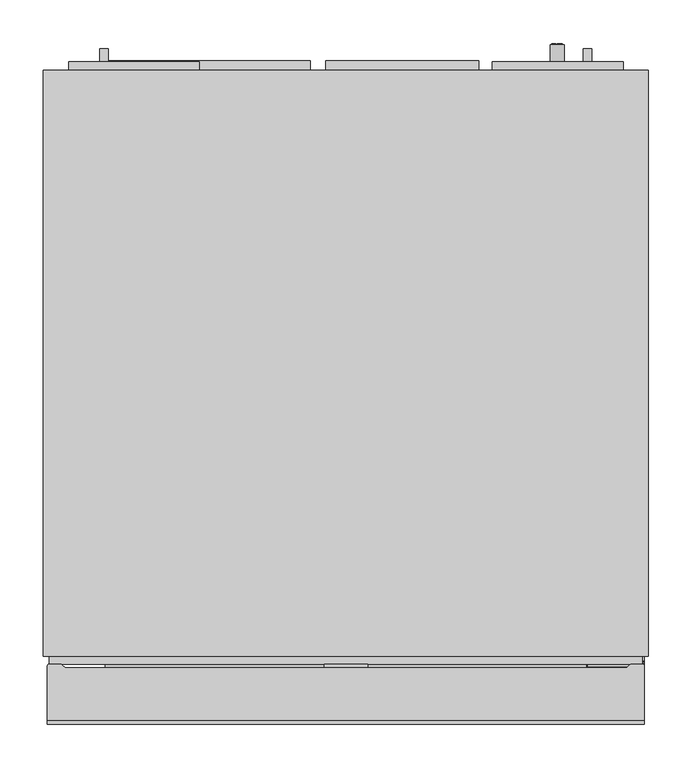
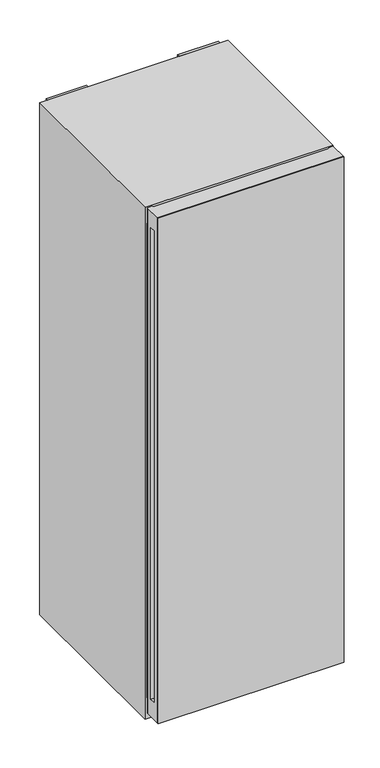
"""IFC4 building model written with IfcOpenShell, lengths in millimetres: proxy geometry, 12588220_CN_KWT4999F_OBSW : 39499962_CN_12588220_KWT4999F_OBSW."""

from ifc_helpers import new_model, si_unit, point, frame, frame_2d, origin, origin_with_axes, place, context, project, spatial, polyline, circle_curve, trimmed, segment, composite_curve, outline, extrude, faceted_brep, source, transform, mapped, element, save
from ifc_brep_helpers import plane_surface, cylinder_surface, advanced_brep


def specialty_equipment_9f9a1140(model_context):
    return source(origin(), model_context, "Body", "SolidModel", [
        extrude(outline(composite_curve([segment(polyline([(1710.5, -226.25), (1702.5, -226.25), (1702.5, -208.25), (1710.5, -208.25)]), True, "CONTINUOUS"), segment(trimmed(circle_curve(frame_2d((1710.5, -212.25)), 4.0), [point((1710.5, -208.25))], [point((1714.5, -212.25))], False, "CARTESIAN"), True, "CONTINUOUS"), segment(polyline([(1714.5, -212.25), (1714.5, -222.25)]), True, "CONTINUOUS"), segment(trimmed(circle_curve(frame_2d((1710.5, -222.25)), 4.0), [point((1714.5, -222.25))], [point((1710.5, -226.25))], False, "CARTESIAN"), True, "CONTINUOUS")], self_intersect=False)), frame((0.0, -683.7655853, 0.0), z_axis=(0.0, 1.0, 0.0), x_axis=(0.0, 0.0, 1.0)), (0.0, 0.0, 1.0), 517.2655853),
        extrude(outline(composite_curve([segment(polyline([(1710.5, -186.75), (1702.5, -186.75), (1702.5, -168.75), (1710.5, -168.75)]), True, "CONTINUOUS"), segment(trimmed(circle_curve(frame_2d((1710.5, -172.75)), 4.0), [point((1710.5, -168.75))], [point((1714.5, -172.75))], False, "CARTESIAN"), True, "CONTINUOUS"), segment(polyline([(1714.5, -172.75), (1714.5, -182.75)]), True, "CONTINUOUS"), segment(trimmed(circle_curve(frame_2d((1710.5, -182.75)), 4.0), [point((1714.5, -182.75))], [point((1710.5, -186.75))], False, "CARTESIAN"), True, "CONTINUOUS")], self_intersect=False)), frame((0.0, -683.7655853, 0.0), z_axis=(0.0, 1.0, 0.0), x_axis=(0.0, 0.0, 1.0)), (0.0, 0.0, 1.0), 517.2655853),
        extrude(outline(composite_curve([segment(polyline([(1710.5, -147.25), (1702.5, -147.25), (1702.5, -129.25), (1710.5, -129.25)]), True, "CONTINUOUS"), segment(trimmed(circle_curve(frame_2d((1710.5, -133.25)), 4.0), [point((1710.5, -129.25))], [point((1714.5, -133.25))], False, "CARTESIAN"), True, "CONTINUOUS"), segment(polyline([(1714.5, -133.25), (1714.5, -143.25)]), True, "CONTINUOUS"), segment(trimmed(circle_curve(frame_2d((1710.5, -143.25)), 4.0), [point((1714.5, -143.25))], [point((1710.5, -147.25))], False, "CARTESIAN"), True, "CONTINUOUS")], self_intersect=False)), frame((0.0, -683.7655853, 0.0), z_axis=(0.0, 1.0, 0.0), x_axis=(0.0, 0.0, 1.0)), (0.0, 0.0, 1.0), 517.2655853),
        extrude(outline(composite_curve([segment(trimmed(circle_curve(frame_2d((1710.5, 143.25)), 4.0), [point((1710.5, 147.25))], [point((1714.5, 143.25))], False, "CARTESIAN"), True, "CONTINUOUS"), segment(polyline([(1714.5, 143.25), (1714.5, 133.25)]), True, "CONTINUOUS"), segment(trimmed(circle_curve(frame_2d((1710.5, 133.25)), 4.0), [point((1714.5, 133.25))], [point((1710.5, 129.25))], False, "CARTESIAN"), True, "CONTINUOUS"), segment(polyline([(1710.5, 129.25), (1702.5, 129.25), (1702.5, 147.25), (1710.5, 147.25)]), True, "CONTINUOUS")], self_intersect=False)), frame((0.0, -683.7655853, 0.0), z_axis=(0.0, 1.0, 0.0), x_axis=(0.0, 0.0, 1.0)), (0.0, 0.0, 1.0), 517.2655853),
        extrude(outline(composite_curve([segment(trimmed(circle_curve(frame_2d((1710.5, 64.25)), 4.0), [point((1710.5, 68.25))], [point((1714.5, 64.25))], False, "CARTESIAN"), True, "CONTINUOUS"), segment(polyline([(1714.5, 64.25), (1714.5, 54.25)]), True, "CONTINUOUS"), segment(trimmed(circle_curve(frame_2d((1710.5, 54.25)), 4.0), [point((1714.5, 54.25))], [point((1710.5, 50.25))], False, "CARTESIAN"), True, "CONTINUOUS"), segment(polyline([(1710.5, 50.25), (1702.5, 50.25), (1702.5, 68.25), (1710.5, 68.25)]), True, "CONTINUOUS")], self_intersect=False)), frame((0.0, -683.7655853, 0.0), z_axis=(0.0, 1.0, 0.0), x_axis=(0.0, 0.0, 1.0)), (0.0, 0.0, 1.0), 517.2655853),
        extrude(outline(composite_curve([segment(trimmed(circle_curve(frame_2d((1710.5, 103.75)), 4.0), [point((1710.5, 107.75))], [point((1714.5, 103.75))], False, "CARTESIAN"), True, "CONTINUOUS"), segment(polyline([(1714.5, 103.75), (1714.5, 93.75)]), True, "CONTINUOUS"), segment(trimmed(circle_curve(frame_2d((1710.5, 93.75)), 4.0), [point((1714.5, 93.75))], [point((1710.5, 89.75))], False, "CARTESIAN"), True, "CONTINUOUS"), segment(polyline([(1710.5, 89.75), (1702.5, 89.75), (1702.5, 107.75), (1710.5, 107.75)]), True, "CONTINUOUS")], self_intersect=False)), frame((0.0, -683.7655853, 0.0), z_axis=(0.0, 1.0, 0.0), x_axis=(0.0, 0.0, 1.0)), (0.0, 0.0, 1.0), 517.2655853),
        extrude(outline(composite_curve([segment(polyline([(1710.5, -107.75), (1702.5, -107.75), (1702.5, -89.75), (1710.5, -89.75)]), True, "CONTINUOUS"), segment(trimmed(circle_curve(frame_2d((1710.5, -93.75)), 4.0), [point((1710.5, -89.75))], [point((1714.5, -93.75))], False, "CARTESIAN"), True, "CONTINUOUS"), segment(polyline([(1714.5, -93.75), (1714.5, -103.75)]), True, "CONTINUOUS"), segment(trimmed(circle_curve(frame_2d((1710.5, -103.75)), 4.0), [point((1714.5, -103.75))], [point((1710.5, -107.75))], False, "CARTESIAN"), True, "CONTINUOUS")], self_intersect=False)), frame((0.0, -683.7655853, 0.0), z_axis=(0.0, 1.0, 0.0), x_axis=(0.0, 0.0, 1.0)), (0.0, 0.0, 1.0), 517.2655853),
        extrude(outline(composite_curve([segment(trimmed(circle_curve(frame_2d((1710.5, -54.25)), 4.0), [point((1710.5, -50.25))], [point((1714.5, -54.25))], False, "CARTESIAN"), True, "CONTINUOUS"), segment(polyline([(1714.5, -54.25), (1714.5, -64.25)]), True, "CONTINUOUS"), segment(trimmed(circle_curve(frame_2d((1710.5, -64.25)), 4.0), [point((1714.5, -64.25))], [point((1710.5, -68.25))], False, "CARTESIAN"), True, "CONTINUOUS"), segment(polyline([(1710.5, -68.25), (1702.5, -68.25), (1702.5, -50.25), (1710.5, -50.25)]), True, "CONTINUOUS")], self_intersect=False)), frame((0.0, -683.7655853, 0.0), z_axis=(0.0, 1.0, 0.0), x_axis=(0.0, 0.0, 1.0)), (0.0, 0.0, 1.0), 517.2655853),
        extrude(outline(composite_curve([segment(trimmed(circle_curve(frame_2d((1710.5, 24.75)), 4.0), [point((1710.5, 28.75))], [point((1714.5, 24.75))], False, "CARTESIAN"), True, "CONTINUOUS"), segment(polyline([(1714.5, 24.75), (1714.5, 14.75)]), True, "CONTINUOUS"), segment(trimmed(circle_curve(frame_2d((1710.5, 14.75)), 4.0), [point((1714.5, 14.75))], [point((1710.5, 10.75))], False, "CARTESIAN"), True, "CONTINUOUS"), segment(polyline([(1710.5, 10.75), (1702.5, 10.75), (1702.5, 28.75), (1710.5, 28.75)]), True, "CONTINUOUS")], self_intersect=False)), frame((0.0, -683.7655853, 0.0), z_axis=(0.0, 1.0, 0.0), x_axis=(0.0, 0.0, 1.0)), (0.0, 0.0, 1.0), 517.2655853),
        extrude(outline(composite_curve([segment(polyline([(1710.5, -28.75), (1702.5, -28.75), (1702.5, -10.75), (1710.5, -10.75)]), True, "CONTINUOUS"), segment(trimmed(circle_curve(frame_2d((1710.5, -14.75)), 4.0), [point((1710.5, -10.75))], [point((1714.5, -14.75))], False, "CARTESIAN"), True, "CONTINUOUS"), segment(polyline([(1714.5, -14.75), (1714.5, -24.75)]), True, "CONTINUOUS"), segment(trimmed(circle_curve(frame_2d((1710.5, -24.75)), 4.0), [point((1714.5, -24.75))], [point((1710.5, -28.75))], False, "CARTESIAN"), True, "CONTINUOUS")], self_intersect=False)), frame((0.0, -683.7655853, 0.0), z_axis=(0.0, 1.0, 0.0), x_axis=(0.0, 0.0, 1.0)), (0.0, 0.0, 1.0), 517.2655853),
        extrude(outline(composite_curve([segment(trimmed(circle_curve(frame_2d((1710.5, 222.25)), 4.0), [point((1710.5, 226.25))], [point((1714.5, 222.25))], False, "CARTESIAN"), True, "CONTINUOUS"), segment(polyline([(1714.5, 222.25), (1714.5, 212.25)]), True, "CONTINUOUS"), segment(trimmed(circle_curve(frame_2d((1710.5, 212.25)), 4.0), [point((1714.5, 212.25))], [point((1710.5, 208.25))], False, "CARTESIAN"), True, "CONTINUOUS"), segment(polyline([(1710.5, 208.25), (1702.5, 208.25), (1702.5, 226.25), (1710.5, 226.25)]), True, "CONTINUOUS")], self_intersect=False)), frame((0.0, -683.7655853, 0.0), z_axis=(0.0, 1.0, 0.0), x_axis=(0.0, 0.0, 1.0)), (0.0, 0.0, 1.0), 517.2655853),
        extrude(outline(composite_curve([segment(trimmed(circle_curve(frame_2d((1710.5, 182.75)), 4.0), [point((1710.5, 186.75))], [point((1714.5, 182.75))], False, "CARTESIAN"), True, "CONTINUOUS"), segment(polyline([(1714.5, 182.75), (1714.5, 172.75)]), True, "CONTINUOUS"), segment(trimmed(circle_curve(frame_2d((1710.5, 172.75)), 4.0), [point((1714.5, 172.75))], [point((1710.5, 168.75))], False, "CARTESIAN"), True, "CONTINUOUS"), segment(polyline([(1710.5, 168.75), (1702.5, 168.75), (1702.5, 186.75), (1710.5, 186.75)]), True, "CONTINUOUS")], self_intersect=False)), frame((0.0, -683.7655853, 0.0), z_axis=(0.0, 1.0, 0.0), x_axis=(0.0, 0.0, 1.0)), (0.0, 0.0, 1.0), 517.2655853),
        extrude(outline(polyline([(287.5, -205.4398803), (-287.5, -205.4398803), (-287.5, -198.4398803), (287.5, -198.4398803), (287.5, -205.4398803)])), frame((0.0, 0.0, 1800.7318744), z_axis=(0.0, 0.0, 1.0), x_axis=(1.0, 0.0, 0.0)), (0.0, 0.0, 1.0), 36.2681256),
        extrude(outline(composite_curve([segment(polyline([(1828.0, -202.5500031), (1820.0, -202.5500031), (1820.0, -184.5500031), (1828.0, -184.5500031)]), True, "CONTINUOUS"), segment(trimmed(circle_curve(frame_2d((1828.0, -188.5500031)), 4.0), [point((1828.0, -184.5500031))], [point((1832.0, -188.5500031))], False, "CARTESIAN"), True, "CONTINUOUS"), segment(polyline([(1832.0, -188.5500031), (1832.0, -198.5500031)]), True, "CONTINUOUS"), segment(trimmed(circle_curve(frame_2d((1828.0, -198.5500031)), 4.0), [point((1832.0, -198.5500031))], [point((1828.0, -202.5500031))], False, "CARTESIAN"), True, "CONTINUOUS")], self_intersect=False)), frame((0.0, -683.7655853, 0.0), z_axis=(0.0, 1.0, 0.0), x_axis=(0.0, 0.0, 1.0)), (0.0, 0.0, 1.0), 472.325705),
        extrude(outline(composite_curve([segment(polyline([(1828.0, -147.25), (1820.0, -147.25), (1820.0, -129.25), (1828.0, -129.25)]), True, "CONTINUOUS"), segment(trimmed(circle_curve(frame_2d((1828.0, -133.25)), 4.0), [point((1828.0, -129.25))], [point((1832.0, -133.25))], False, "CARTESIAN"), True, "CONTINUOUS"), segment(polyline([(1832.0, -133.25), (1832.0, -143.25)]), True, "CONTINUOUS"), segment(trimmed(circle_curve(frame_2d((1828.0, -143.25)), 4.0), [point((1832.0, -143.25))], [point((1828.0, -147.25))], False, "CARTESIAN"), True, "CONTINUOUS")], self_intersect=False)), frame((0.0, -683.7655853, 0.0), z_axis=(0.0, 1.0, 0.0), x_axis=(0.0, 0.0, 1.0)), (0.0, 0.0, 1.0), 472.325705),
        extrude(outline(composite_curve([segment(polyline([(1828.0, -91.9499969), (1820.0, -91.9499969), (1820.0, -73.9499969), (1828.0, -73.9499969)]), True, "CONTINUOUS"), segment(trimmed(circle_curve(frame_2d((1828.0, -77.9499969)), 4.0), [point((1828.0, -73.9499969))], [point((1832.0, -77.9499969))], False, "CARTESIAN"), True, "CONTINUOUS"), segment(polyline([(1832.0, -77.9499969), (1832.0, -87.9499969)]), True, "CONTINUOUS"), segment(trimmed(circle_curve(frame_2d((1828.0, -87.9499969)), 4.0), [point((1832.0, -87.9499969))], [point((1828.0, -91.9499969))], False, "CARTESIAN"), True, "CONTINUOUS")], self_intersect=False)), frame((0.0, -683.7655853, 0.0), z_axis=(0.0, 1.0, 0.0), x_axis=(0.0, 0.0, 1.0)), (0.0, 0.0, 1.0), 472.325705),
        extrude(outline(composite_curve([segment(trimmed(circle_curve(frame_2d((1828.0, 198.5500031)), 4.0), [point((1828.0, 202.5500031))], [point((1832.0, 198.5500031))], False, "CARTESIAN"), True, "CONTINUOUS"), segment(polyline([(1832.0, 198.5500031), (1832.0, 188.5500031)]), True, "CONTINUOUS"), segment(trimmed(circle_curve(frame_2d((1828.0, 188.5500031)), 4.0), [point((1832.0, 188.5500031))], [point((1828.0, 184.5500031))], False, "CARTESIAN"), True, "CONTINUOUS"), segment(polyline([(1828.0, 184.5500031), (1820.0, 184.5500031), (1820.0, 202.5500031), (1828.0, 202.5500031)]), True, "CONTINUOUS")], self_intersect=False)), frame((0.0, -683.7655853, 0.0), z_axis=(0.0, 1.0, 0.0), x_axis=(0.0, 0.0, 1.0)), (0.0, 0.0, 1.0), 472.325705),
        extrude(outline(composite_curve([segment(trimmed(circle_curve(frame_2d((1828.0, 87.9499969)), 4.0), [point((1828.0, 91.9499969))], [point((1832.0, 87.9499969))], False, "CARTESIAN"), True, "CONTINUOUS"), segment(polyline([(1832.0, 87.9499969), (1832.0, 77.9499969)]), True, "CONTINUOUS"), segment(trimmed(circle_curve(frame_2d((1828.0, 77.9499969)), 4.0), [point((1832.0, 77.9499969))], [point((1828.0, 73.9499969))], False, "CARTESIAN"), True, "CONTINUOUS"), segment(polyline([(1828.0, 73.9499969), (1820.0, 73.9499969), (1820.0, 91.9499969), (1828.0, 91.9499969)]), True, "CONTINUOUS")], self_intersect=False)), frame((0.0, -683.7655853, 0.0), z_axis=(0.0, 1.0, 0.0), x_axis=(0.0, 0.0, 1.0)), (0.0, 0.0, 1.0), 472.325705),
        extrude(outline(composite_curve([segment(trimmed(circle_curve(frame_2d((1828.0, 143.25)), 4.0), [point((1828.0, 147.25))], [point((1832.0, 143.25))], False, "CARTESIAN"), True, "CONTINUOUS"), segment(polyline([(1832.0, 143.25), (1832.0, 133.25)]), True, "CONTINUOUS"), segment(trimmed(circle_curve(frame_2d((1828.0, 133.25)), 4.0), [point((1832.0, 133.25))], [point((1828.0, 129.25))], False, "CARTESIAN"), True, "CONTINUOUS"), segment(polyline([(1828.0, 129.25), (1820.0, 129.25), (1820.0, 147.25), (1828.0, 147.25)]), True, "CONTINUOUS")], self_intersect=False)), frame((0.0, -683.7655853, 0.0), z_axis=(0.0, 1.0, 0.0), x_axis=(0.0, 0.0, 1.0)), (0.0, 0.0, 1.0), 472.325705),
        extrude(outline(composite_curve([segment(polyline([(1828.0, -36.6500015), (1820.0, -36.6500015), (1820.0, -18.6500015), (1828.0, -18.6500015)]), True, "CONTINUOUS"), segment(trimmed(circle_curve(frame_2d((1828.0, -22.6500015)), 4.0), [point((1828.0, -18.6500015))], [point((1832.0, -22.6500015))], False, "CARTESIAN"), True, "CONTINUOUS"), segment(polyline([(1832.0, -22.6500015), (1832.0, -32.6500015)]), True, "CONTINUOUS"), segment(trimmed(circle_curve(frame_2d((1828.0, -32.6500015)), 4.0), [point((1832.0, -32.6500015))], [point((1828.0, -36.6500015))], False, "CARTESIAN"), True, "CONTINUOUS")], self_intersect=False)), frame((0.0, -683.7655853, 0.0), z_axis=(0.0, 1.0, 0.0), x_axis=(0.0, 0.0, 1.0)), (0.0, 0.0, 1.0), 472.325705),
        extrude(outline(composite_curve([segment(trimmed(circle_curve(frame_2d((1828.0, 32.6500015)), 4.0), [point((1828.0, 36.6500015))], [point((1832.0, 32.6500015))], False, "CARTESIAN"), True, "CONTINUOUS"), segment(polyline([(1832.0, 32.6500015), (1832.0, 22.6500015)]), True, "CONTINUOUS"), segment(trimmed(circle_curve(frame_2d((1828.0, 22.6500015)), 4.0), [point((1832.0, 22.6500015))], [point((1828.0, 18.6500015))], False, "CARTESIAN"), True, "CONTINUOUS"), segment(polyline([(1828.0, 18.6500015), (1820.0, 18.6500015), (1820.0, 36.6500015), (1828.0, 36.6500015)]), True, "CONTINUOUS")], self_intersect=False)), frame((0.0, -683.7655853, 0.0), z_axis=(0.0, 1.0, 0.0), x_axis=(0.0, 0.0, 1.0)), (0.0, 0.0, 1.0), 472.325705),
        faceted_brep([(348.5, -25.0, 2010.0), (-348.5, -25.0, 2010.0), (-348.5, -700.0, 2010.0), (348.5, -700.0, 2010.0), (348.5, -25.0, 6.5), (348.5, -700.0, 6.5), (-348.5, -700.0, 6.5), (-348.5, -25.0, 6.5), (-297.5, -700.0, 1920.4289551), (297.5, -700.0, 1920.4289551), (297.5, -700.0, 89.0), (-297.5, -700.0, 89.0), (297.5, -83.343928, 1920.4289551), (-297.5, -83.343928, 1920.4289551), (-297.5, -83.343928, 89.0), (297.5, -83.343928, 89.0)], [[[0, 1, 2, 3]], [[4, 5, 6, 7]], [[1, 0, 4, 7]], [[2, 1, 7, 6]], [[3, 2, 6, 5], [8, 9, 10, 11]], [[0, 3, 5, 4]], [[12, 13, 14, 15]], [[13, 12, 9, 8]], [[14, 13, 8, 11]], [[15, 14, 11, 10]], [[12, 15, 10, 9]]]),
        extrude(outline(composite_curve([segment(polyline([(-95.9827703, 6.5), (-103.1869588, 2.0501928)]), True, "CONTINUOUS"), segment(trimmed(circle_curve(frame_2d((-108.1365732, 6.9998228)), 6.9998228), [point((-103.1869588, 2.0501928))], [point((-108.1365732, 0.0))], False, "CARTESIAN"), True, "CONTINUOUS"), segment(polyline([(-108.1365732, 0.0), (-125.5377832, 0.0)]), True, "CONTINUOUS"), segment(trimmed(circle_curve(frame_2d((-125.5377832, 6.9997602)), 6.9997602), [point((-125.5377832, 0.0))], [point((-130.4873533, 2.0501745))], False, "CARTESIAN"), True, "CONTINUOUS"), segment(polyline([(-130.4873533, 2.0501745), (-134.9371521, 6.5), (-95.9827703, 6.5)]), True, "CONTINUOUS")], self_intersect=False)), frame((273.4, 0.0, 0.0), z_axis=(1.0, 0.0, 0.0), x_axis=(0.0, 1.0, 0.0)), (0.0, 0.0, 1.0), 15.1),
        extrude(outline(polyline([(283.5, -25.0), (273.5, -25.0), (273.5, 0.0), (283.5, 0.0), (283.5, -25.0)])), frame((0.0, 0.0, 238.6185332), z_axis=(0.0, 0.0, 1.0), x_axis=(1.0, 0.0, 0.0)), (0.0, 0.0, 1.0), 19.9825435),
        extrude(outline(polyline([(-273.5, -25.0), (-283.5, -25.0), (-283.5, 0.0), (-273.5, 0.0), (-273.5, -25.0)])), frame((0.0, 0.0, 238.5016503), z_axis=(0.0, 0.0, 1.0), x_axis=(1.0, 0.0, 0.0)), (0.0, 0.0, 1.0), 20.0994264),
        extrude(outline(polyline([(152.9313579, -25.0), (-22.9290128, -25.0), (-22.9290128, -13.9), (152.9313579, -13.9), (152.9313579, -25.0)])), frame((0.0, 0.0, 70.0672798), z_axis=(0.0, 0.0, 1.0), x_axis=(1.0, 0.0, 0.0)), (0.0, 0.0, 1.0), 96.7820244),
        extrude(outline(polyline([(-40.8456656, -25.0), (-275.5, -25.0), (-275.5, -13.9), (-40.8456656, -13.9), (-40.8456656, -25.0)])), frame((0.0, 0.0, 69.6571007), z_axis=(0.0, 0.0, 1.0), x_axis=(1.0, 0.0, 0.0)), (0.0, 0.0, 1.0), 97.1922035),
        extrude(outline(composite_curve([segment(trimmed(circle_curve(frame_2d((297.5, -685.0)), 12.0), [point((285.5, -685.0))], [point((309.5, -685.0))], False, "CARTESIAN"), True, "CONTINUOUS"), segment(trimmed(circle_curve(frame_2d((297.5, -685.0)), 12.0), [point((309.5, -685.0))], [point((285.5, -685.0))], False, "CARTESIAN"), True, "CONTINUOUS")], self_intersect=False)), origin_with_axes(), (0.0, 0.0, 1.0), 4.8499999),
        extrude(outline(composite_curve([segment(trimmed(circle_curve(frame_2d((-297.5, -685.0)), 12.0), [point((-309.5, -685.0))], [point((-285.5, -685.0))], False, "CARTESIAN"), True, "CONTINUOUS"), segment(trimmed(circle_curve(frame_2d((-297.5, -685.0)), 12.0), [point((-285.5, -685.0))], [point((-309.5, -685.0))], False, "CARTESIAN"), True, "CONTINUOUS")], self_intersect=False)), origin_with_axes(), (0.0, 0.0, 1.0), 4.8499999),
        extrude(outline(composite_curve([segment(trimmed(circle_curve(frame_2d((297.5, -685.0)), 6.5052807), [point((290.9947193, -685.0))], [point((304.0052807, -685.0))], False, "CARTESIAN"), True, "CONTINUOUS"), segment(trimmed(circle_curve(frame_2d((297.5, -685.0)), 6.5052807), [point((304.0052807, -685.0))], [point((290.9947193, -685.0))], False, "CARTESIAN"), True, "CONTINUOUS")], self_intersect=False)), frame((0.0, 0.0, 4.8499999), z_axis=(0.0, 0.0, 1.0), x_axis=(1.0, 0.0, 0.0)), (0.0, 0.0, 1.0), 1.6500001),
        extrude(outline(composite_curve([segment(trimmed(circle_curve(frame_2d((-297.5, -685.0)), 6.5052807), [point((-304.0052807, -685.0))], [point((-290.9947193, -685.0))], False, "CARTESIAN"), True, "CONTINUOUS"), segment(trimmed(circle_curve(frame_2d((-297.5, -685.0)), 6.5052807), [point((-290.9947193, -685.0))], [point((-304.0052807, -685.0))], False, "CARTESIAN"), True, "CONTINUOUS")], self_intersect=False)), frame((0.0, 0.0, 4.8499999), z_axis=(0.0, 0.0, 1.0), x_axis=(1.0, 0.0, 0.0)), (0.0, 0.0, 1.0), 1.6500001),
        extrude(outline(composite_curve([segment(polyline([(-98.7372004, 6.5), (-103.1869809, 2.0501928)]), True, "CONTINUOUS"), segment(trimmed(circle_curve(frame_2d((-108.1365842, 6.9997961)), 6.9997961), [point((-103.1869809, 2.0501928))], [point((-108.1365842, 0.0))], False, "CARTESIAN"), True, "CONTINUOUS"), segment(polyline([(-108.1365842, 0.0), (-125.5377942, 0.0)]), True, "CONTINUOUS"), segment(trimmed(circle_curve(frame_2d((-125.5377942, 6.9997335)), 6.9997335), [point((-125.5377942, 0.0))], [point((-130.4873533, 2.0501745))], False, "CARTESIAN"), True, "CONTINUOUS"), segment(polyline([(-130.4873533, 2.0501745), (-134.9371521, 6.5), (-98.7372004, 6.5)]), True, "CONTINUOUS")], self_intersect=False)), frame((-288.4986681, 0.0, 0.0), z_axis=(1.0, 0.0, 0.0), x_axis=(0.0, 1.0, 0.0)), (0.0, 0.0, 1.0), 15.4986681),
        extrude(outline(composite_curve([segment(polyline([(-77.4661946, 6.5), (-54.5459203, 6.5)]), True, "CONTINUOUS"), segment(trimmed(circle_curve(frame_2d((-66.0060575, 13.3267301)), 13.3393773), [point((-54.5459203, 6.5))], [point((-77.4661946, 6.5))], False, "CARTESIAN"), True, "CONTINUOUS")], self_intersect=False)), frame((248.5, 0.0, 0.0), z_axis=(1.0, 0.0, 0.0), x_axis=(0.0, 1.0, 0.0)), (0.0, 0.0, 1.0), 15.0),
        extrude(outline(composite_curve([segment(polyline([(-77.4661946, 6.5), (-54.5459203, 6.5)]), True, "CONTINUOUS"), segment(trimmed(circle_curve(frame_2d((-66.0060575, 13.3267301)), 13.3393773), [point((-54.5459203, 6.5))], [point((-77.4661946, 6.5))], False, "CARTESIAN"), True, "CONTINUOUS")], self_intersect=False)), frame((-263.5, 0.0, 0.0), z_axis=(1.0, 0.0, 0.0), x_axis=(0.0, 1.0, 0.0)), (0.0, 0.0, 1.0), 15.0),
        extrude(outline(polyline([(-168.8940533, -25.0), (-319.5, -25.0), (-319.5, -14.9869385), (-168.8940533, -14.9869385), (-168.8940533, -25.0)])), frame((0.0, 0.0, 1968.3465251), z_axis=(0.0, 0.0, 1.0), x_axis=(1.0, 0.0, 0.0)), (0.0, 0.0, 1.0), 41.6534749),
        extrude(outline(polyline([(319.5, -25.0), (168.8940533, -25.0), (168.8940533, -14.9869385), (319.5, -14.9869385), (319.5, -25.0)])), frame((0.0, 0.0, 1968.3465251), z_axis=(0.0, 0.0, 1.0), x_axis=(1.0, 0.0, 0.0)), (0.0, 0.0, 1.0), 41.6534749),
        extrude(outline(polyline([(143.6302282, 249.4018082), (151.666733, 249.4018082), (151.666733, 243.6255704), (150.6621699, 243.6255704), (150.6621699, 248.3972451), (148.2763325, 248.3972451), (148.2763325, 243.8767112), (147.2717694, 243.8767112), (147.2717694, 248.3972451), (144.6347913, 248.3972451), (144.6347913, 243.5), (143.6302282, 243.5), (143.6302282, 249.4018082)])), frame((0.0, 5.0, 0.0), z_axis=(0.0, 1.0, 0.0), x_axis=(0.0, 0.0, 1.0)), (0.0, 0.0, 1.0), 1.0),
        extrude(outline(polyline([(143.6302282, 241.9931553), (151.666733, 241.9931553), (151.666733, 240.9885922), (144.6347913, 240.9885922), (144.6347913, 236.9703398), (143.6302282, 236.9703398), (143.6302282, 241.9931553)])), frame((0.0, 5.0, 0.0), z_axis=(0.0, 1.0, 0.0), x_axis=(0.0, 0.0, 1.0)), (0.0, 0.0, 1.0), 1.0),
        extrude(outline(composite_curve([segment(trimmed(circle_curve(frame_2d((147.612854, 243.5)), 8.0), [point((147.612854, 235.5))], [point((147.612854, 251.5))], False, "CARTESIAN"), True, "CONTINUOUS"), segment(trimmed(circle_curve(frame_2d((147.612854, 243.5)), 8.0), [point((147.612854, 251.5))], [point((147.612854, 235.5))], False, "CARTESIAN"), True, "CONTINUOUS")], self_intersect=False)), frame((0.0, -25.0, 0.0), z_axis=(0.0, 1.0, 0.0), x_axis=(0.0, 0.0, 1.0)), (0.0, 0.0, 1.0), 30.0),
        extrude(outline(composite_curve([segment(trimmed(circle_curve(frame_2d((327.9342421, -744.0)), 12.0), [point((315.9342421, -744.0))], [point((339.9342421, -744.0))], False, "CARTESIAN"), True, "CONTINUOUS"), segment(trimmed(circle_curve(frame_2d((327.9342421, -744.0)), 12.0), [point((339.9342421, -744.0))], [point((315.9342421, -744.0))], False, "CARTESIAN"), True, "CONTINUOUS")], self_intersect=False)), frame((0.0, 0.0, 24.3999996), z_axis=(0.0, 0.0, 1.0), x_axis=(1.0, 0.0, 0.0)), (0.0, 0.0, 1.0), 10.6000004),
        extrude(outline(polyline([(25.0, -774.0), (-25.0, -774.0), (-25.0, -709.4869385), (25.0, -709.4869385), (25.0, -774.0)])), frame((0.0, 0.0, 1931.7094489), z_axis=(0.0, 0.0, 1.0), x_axis=(1.0, 0.0, 0.0)), (0.0, 0.0, 1.0), 37.5553013),
        extrude(outline(polyline([(276.994585, -774.0), (-277.0002923, -774.0), (-277.0002923, -709.4869385), (276.994585, -709.4869385), (276.994585, -774.0)])), frame((0.0, 0.0, 148.0), z_axis=(0.0, 0.0, 1.0), x_axis=(1.0, 0.0, 0.0)), (0.0, 0.0, 1.0), 1740.2571148),
        extrude(outline(polyline([(-723.5480061, 19.3999996), (-756.4869385, 19.3999996), (-756.4869385, 24.3999996), (-723.8043454, 24.3999996), (-718.1557004, 22.0602542), (-715.5576245, 17.5602542), (-711.7816494, 15.3801952), (-708.0234631, 15.3801952), (-705.8645944, 16.2757127), (-705.0, 18.3630282), (-705.0, 84.3223068), (-700.0, 84.3223068), (-700.0, 17.3684663), (-702.0371909, 12.4502525), (-707.0275813, 10.3801952), (-713.1213947, 10.3801952), (-719.2178783, 13.8999996), (-721.8159542, 18.3999996), (-723.5480061, 19.3999996)])), frame((278.8353296, 0.0, 0.0), z_axis=(1.0, 0.0, 0.0), x_axis=(0.0, 1.0, 0.0)), (0.0, 0.0, 1.0), 64.9646704),
        advanced_brep(
        [(343.8, -774.0, 2012.2999756), (343.8, -710.9869385, 2012.2999756), (342.3, -709.4869385, 2012.2999756), (328.3456807, -709.4869385, 2012.2999756), (327.0728238, -710.014173, 2012.2999756), (323.6000584, -713.4869385, 2012.2999756), (-323.6000584, -713.4869385, 2012.2999756), (-327.0728238, -710.014173, 2012.2999756), (-328.3456807, -709.4869385, 2012.2999756), (-342.3, -709.4869385, 2012.2999756), (-343.8, -710.9869385, 2012.2999756), (-343.8, -774.0, 2012.2999756), (343.8, -774.0, 35.0), (-343.8, -774.0, 35.0), (-343.8, -710.9869385, 35.0), (-342.3, -709.4869385, 35.0), (-328.3456807, -709.4869385, 35.0), (-327.0728238, -710.014173, 35.0), (-323.6000584, -713.4869385, 35.0), (323.6000584, -713.4869385, 35.0), (327.0728238, -710.014173, 35.0), (328.3456807, -709.4869385, 35.0), (342.3, -709.4869385, 35.0), (343.8, -710.9869385, 35.0), (343.8, -750.010437, 101.0), (343.8, -750.010437, 1946.5), (343.8, -730.225994, 1946.5), (343.8, -730.225994, 101.0), (276.994585, -713.4869385, 1888.2571148), (-277.0002923, -713.4869385, 1888.2571148), (-277.0002923, -713.4869385, 148.0), (276.994585, -713.4869385, 148.0), (25.0, -713.4869385, 1969.2647502), (-25.0, -713.4869385, 1969.2647502), (-25.0, -713.4869385, 1931.7094489), (25.0, -713.4869385, 1931.7094489), (-343.8, -750.010437, 1946.5), (-343.8, -750.010437, 101.0), (-343.8, -730.225994, 101.0), (-343.8, -730.225994, 1946.5), (-277.0002923, -774.0, 1888.2571148), (276.994585, -774.0, 1888.2571148), (276.994585, -774.0, 148.0), (-277.0002923, -774.0, 148.0), (-25.0, -774.0, 1969.2647502), (25.0, -774.0, 1969.2647502), (25.0, -774.0, 1931.7094489), (-25.0, -774.0, 1931.7094489), (327.9342421, -750.010437, 1946.5), (327.9342421, -750.010437, 101.0), (327.9342421, -730.225994, 101.0), (327.9342421, -730.225994, 1946.5), (-327.9342421, -750.010437, 1946.5), (-327.9342421, -730.225994, 1946.5), (-327.9342421, -730.225994, 101.0), (-327.9342421, -750.010437, 101.0)],
        [
            (0, 1),
            (1, 2, circle_curve(frame((342.3, -710.9869385, 2012.2999756), z_axis=(0.0, 0.0, 1.0), x_axis=(1.0, 0.0, 0.0)), 1.5)),
            (2, 3),
            (3, 4, circle_curve(frame((328.3456807, -711.2870299, 2012.2999756), z_axis=(0.0, 0.0, 1.0), x_axis=(1.0, 0.0, 0.0)), 1.8000914)),
            (4, 5),
            (5, 6),
            (6, 7),
            (7, 8, circle_curve(frame((-328.3456807, -711.2870299, 2012.2999756), z_axis=(0.0, 0.0, 1.0), x_axis=(1.0, 0.0, 0.0)), 1.8000914)),
            (8, 9),
            (9, 10, circle_curve(frame((-342.3, -710.9869385, 2012.2999756), z_axis=(0.0, 0.0, 1.0), x_axis=(1.0, 0.0, 0.0)), 1.5)),
            (10, 11),
            (11, 0),
            (12, 13),
            (13, 14),
            (14, 15, circle_curve(frame((-342.3, -710.9869385, 35.0), z_axis=(0.0, 0.0, -1.0), x_axis=(1.0, 0.0, 0.0)), 1.5)),
            (15, 16),
            (16, 17, circle_curve(frame((-328.3456807, -711.2870299, 35.0), z_axis=(0.0, 0.0, -1.0), x_axis=(1.0, 0.0, 0.0)), 1.8000914)),
            (17, 18),
            (18, 19),
            (19, 20),
            (20, 21, circle_curve(frame((328.3456807, -711.2870299, 35.0), z_axis=(0.0, 0.0, -1.0), x_axis=(1.0, 0.0, 0.0)), 1.8000914)),
            (21, 22),
            (22, 23, circle_curve(frame((342.3, -710.9869385, 35.0), z_axis=(0.0, 0.0, -1.0), x_axis=(1.0, 0.0, 0.0)), 1.5)),
            (23, 12),
            (0, 12),
            (23, 1),
            (24, 25),
            (25, 26),
            (26, 27),
            (27, 24),
            (22, 2),
            (21, 3),
            (20, 4),
            (19, 5),
            (18, 6),
            (28, 29),
            (29, 30),
            (30, 31),
            (31, 28),
            (32, 33),
            (33, 34),
            (34, 35),
            (35, 32),
            (17, 7),
            (16, 8),
            (15, 9),
            (14, 10),
            (13, 11),
            (36, 37),
            (37, 38),
            (38, 39),
            (39, 36),
            (40, 41),
            (41, 42),
            (42, 43),
            (43, 40),
            (44, 45),
            (45, 46),
            (46, 47),
            (47, 44),
            (28, 41),
            (40, 29),
            (43, 30),
            (42, 31),
            (48, 49),
            (49, 50),
            (50, 51),
            (51, 48),
            (48, 25),
            (24, 49),
            (27, 50),
            (26, 51),
            (52, 53),
            (53, 54),
            (54, 55),
            (55, 52),
            (55, 37),
            (36, 52),
            (54, 38),
            (53, 39),
            (32, 45),
            (44, 33),
            (47, 34),
            (46, 35),
        ],
        [
            plane_surface(frame((343.8, -774.0, 2012.2999756), z_axis=(0.0, 0.0, 1.0), x_axis=(0.0, 1.0, 0.0))),
            plane_surface(frame((343.8, -774.0, 35.0), z_axis=(0.0, 0.0, -1.0), x_axis=(0.0, -1.0, 0.0))),
            plane_surface(frame((343.8, -774.0, 2012.2999756), z_axis=(1.0, 0.0, 0.0), x_axis=(0.0, 0.0, -1.0))),
            cylinder_surface(frame((342.3, -710.9869385, 35.0), z_axis=(0.0, 0.0, 1.0), x_axis=(1.0, 0.0, 0.0)), 1.5),
            plane_surface(frame((342.3, -709.4869385, 2012.2999756), z_axis=(-1.5326169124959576e-12, 1.0, 0.0), x_axis=(0.0, 0.0, -1.0))),
            cylinder_surface(frame((328.3456807, -711.2870299, 35.0), z_axis=(0.0, 0.0, 1.0), x_axis=(1.0, 0.0, 0.0)), 1.8000914),
            plane_surface(frame((327.0728238, -710.014173, 2012.2999756), z_axis=(-0.7071067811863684, 0.7071067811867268, 0.0), x_axis=(0.0, 0.0, -1.0))),
            plane_surface(frame((323.6000584, -713.4869385, 2012.2999756), z_axis=(0.0, 1.0, 0.0), x_axis=(0.0, 0.0, -1.0))),
            plane_surface(frame((-323.6000584, -713.4869385, 2012.2999756), z_axis=(0.7071067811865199, 0.7071067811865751, 0.0), x_axis=(0.0, 0.0, -1.0))),
            cylinder_surface(frame((-328.3456807, -711.2870299, 35.0), z_axis=(0.0, 0.0, 1.0), x_axis=(1.0, 0.0, 0.0)), 1.8000914),
            plane_surface(frame((-328.3456807, -709.4869385, 2012.2999756), z_axis=(0.0, 1.0, 0.0), x_axis=(0.0, 0.0, -1.0))),
            cylinder_surface(frame((-342.3, -710.9869385, 35.0), z_axis=(0.0, 0.0, 1.0), x_axis=(1.0, 0.0, 0.0)), 1.5),
            plane_surface(frame((-343.8, -710.9869385, 2012.2999756), z_axis=(-1.0, 0.0, 0.0), x_axis=(0.0, 0.0, -1.0))),
            plane_surface(frame((-343.8, -774.0, 2012.2999756), z_axis=(0.0, -1.0, 0.0), x_axis=(0.0, 0.0, -1.0))),
            plane_surface(frame((276.994585, -959.9997004, 1888.2571148), z_axis=(0.0, 0.0, -1.0), x_axis=(0.0, 1.0, 0.0))),
            plane_surface(frame((-277.0002923, -959.9997004, 1888.2571148), z_axis=(1.0, 0.0, 0.0), x_axis=(0.0, 1.0, 0.0))),
            plane_surface(frame((-277.0002923, -959.9997004, 148.0), z_axis=(0.0, 0.0, 1.0), x_axis=(0.0, 1.0, 0.0))),
            plane_surface(frame((276.994585, -959.9997004, 148.0), z_axis=(-1.0, 0.0, 0.0), x_axis=(0.0, 1.0, 0.0))),
            plane_surface(frame((327.9342421, -750.010437, 1946.5), z_axis=(1.0, 0.0, 0.0), x_axis=(0.0, 0.0, 1.0))),
            plane_surface(frame((343.8, -750.010437, 1946.5), z_axis=(0.0, 1.0, 0.0), x_axis=(-1.0, 0.0, 0.0))),
            plane_surface(frame((343.8, -750.010437, 101.0), z_axis=(0.0, 0.0, 1.0), x_axis=(-1.0, 0.0, 0.0))),
            plane_surface(frame((343.8, -730.225994, 101.0), z_axis=(0.0, -1.0, 0.0), x_axis=(-1.0, 0.0, 0.0))),
            plane_surface(frame((343.8, -730.225994, 1946.5), z_axis=(0.0, 0.0, -1.0), x_axis=(-1.0, 0.0, 0.0))),
            plane_surface(frame((-327.9342421, -730.225994, 1946.5), z_axis=(-1.0, 0.0, 0.0), x_axis=(0.0, -1.0, 0.0))),
            plane_surface(frame((-343.8, -750.010437, 101.0), z_axis=(0.0, 1.0, 0.0), x_axis=(1.0, 0.0, 0.0))),
            plane_surface(frame((-343.8, -730.225994, 101.0), z_axis=(0.0, 0.0, 1.0), x_axis=(1.0, 0.0, 0.0))),
            plane_surface(frame((-343.8, -730.225994, 1946.5), z_axis=(0.0, -1.0, 0.0), x_axis=(1.0, 0.0, 0.0))),
            plane_surface(frame((-343.8, -750.010437, 1946.5), z_axis=(0.0, 0.0, -1.0), x_axis=(1.0, 0.0, 0.0))),
            plane_surface(frame((25.0, -875.35584, 1969.2647502), z_axis=(0.0, 0.0, -1.0), x_axis=(0.0, 1.0, 0.0))),
            plane_surface(frame((-25.0, -875.35584, 1969.2647502), z_axis=(1.0, 0.0, 0.0), x_axis=(0.0, 1.0, 0.0))),
            plane_surface(frame((-25.0, -875.35584, 1931.7094489), z_axis=(0.0, 0.0, 1.0), x_axis=(0.0, 1.0, 0.0))),
            plane_surface(frame((25.0, -875.35584, 1931.7094489), z_axis=(-1.0, 0.0, 0.0), x_axis=(0.0, 1.0, 0.0))),
        ],
        [
            (0, [[1, 2, 3, 4, 5, 6, 7, 8, 9, 10, 11, 12]]),
            (1, [[13, 14, 15, 16, 17, 18, 19, 20, 21, 22, 23, 24]]),
            (2, [[-1, 25, -24, 26], [27, 28, 29, 30]]),
            (3, [[-2, -26, -23, 31]]),
            (4, [[-3, -31, -22, 32]]),
            (5, [[-4, -32, -21, 33]]),
            (6, [[-5, -33, -20, 34]]),
            (7, [[-6, -34, -19, 35], [36, 37, 38, 39], [40, 41, 42, 43]]),
            (8, [[-7, -35, -18, 44]]),
            (9, [[-8, -44, -17, 45]]),
            (10, [[-9, -45, -16, 46]]),
            (11, [[-10, -46, -15, 47]]),
            (12, [[-11, -47, -14, 48], [49, 50, 51, 52]]),
            (13, [[-12, -48, -13, -25], [53, 54, 55, 56], [57, 58, 59, 60]]),
            (14, [[61, -53, 62, -36]]),
            (15, [[-62, -56, 63, -37]]),
            (16, [[-63, -55, 64, -38]]),
            (17, [[-61, -39, -64, -54]]),
            (18, [[65, 66, 67, 68]]),
            (19, [[-65, 69, -27, 70]]),
            (20, [[-66, -70, -30, 71]]),
            (21, [[-67, -71, -29, 72]]),
            (22, [[-68, -72, -28, -69]]),
            (23, [[73, 74, 75, 76]]),
            (24, [[-76, 77, -49, 78]]),
            (25, [[-75, 79, -50, -77]]),
            (26, [[-74, 80, -51, -79]]),
            (27, [[-73, -78, -52, -80]]),
            (28, [[81, -57, 82, -40]]),
            (29, [[-82, -60, 83, -41]]),
            (30, [[-83, -59, 84, -42]]),
            (31, [[-81, -43, -84, -58]]),
        ],
    ),
        extrude(outline(polyline([(1946.5, 341.5000122), (1946.5, -341.5000122), (90.0, -341.5000122), (90.0, 341.5000122), (1946.5, 341.5000122)]), holes=[polyline([(1888.2571148, 276.994585), (148.0, 276.994585), (148.0, -277.0002923), (1888.2571148, -277.0002923), (1888.2571148, 276.994585)])]), frame((0.0, -709.4869385, 0.0), z_axis=(0.0, 1.0, 0.0), x_axis=(0.0, 0.0, 1.0)), (0.0, 0.0, 1.0), 9.4869385),
        extrude(outline(polyline([(343.9886779, -778.5), (-344.0000122, -778.5), (-344.0000122, -774.0), (343.9886779, -774.0), (343.9886779, -778.5)])), frame((0.0, 0.0, 34.5), z_axis=(0.0, 0.0, 1.0), x_axis=(1.0, 0.0, 0.0)), (0.0, 0.0, 1.0), 1978.2999756),
    ])


if __name__ == "__main__":
    model = new_model("IFC4")
    model_context = context("Model", 3, world=origin())
    ifc_project = project(units=[si_unit("LENGTHUNIT", "METRE", prefix="MILLI")], contexts=[model_context])
    site = spatial("IfcSite", under=ifc_project)
    building = spatial("IfcBuilding", under=site)
    placement = place(None, origin())
    specialty_equipment_shape = specialty_equipment_9f9a1140(model_context)
    element("IfcBuildingElementProxy", 1, Name="12588220_CN_KWT4999F_OBSW : 39499962_CN_12588220_KWT4999F_OBSW", ObjectType="12588220_CN_KWT4999F_OBSW : 39499962_CN_12588220_KWT4999F_OBSW", at=placement, inside=building, context=model_context, shape_type="MappedRepresentation", body=[
        mapped(specialty_equipment_shape, transform((0.0, 0.0, 0.0), x_axis=(1.0, 0.0, 0.0), y_axis=(0.0, 1.0, 0.0), z_axis=(0.0, 0.0, 1.0))),
    ])
    save(model, "model.ifc")
